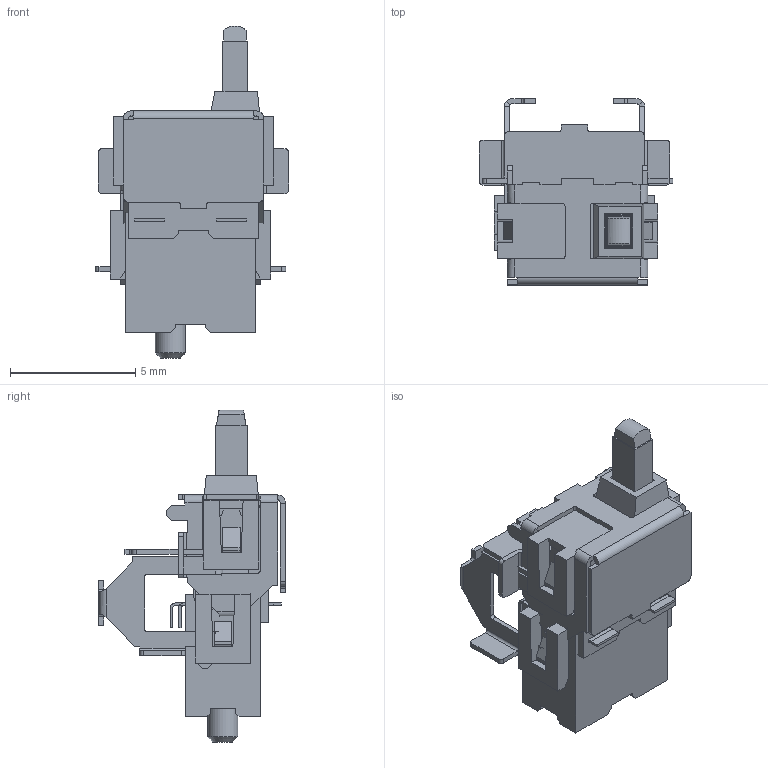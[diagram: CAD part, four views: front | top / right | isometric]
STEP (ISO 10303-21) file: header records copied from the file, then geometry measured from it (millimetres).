
FILE_DESCRIPTION( ( 'Unknown' ), '1' );
FILE_NAME( '//Ntcw022/edgesv/fsw/ユーザ提出用データ/ﾃﾞｨﾃｸﾀｰｽｲｯﾁ/ESE11/ese11mh2-std-sk.stp', 'Unknown', ( 'Unknown' ), ( 'Unknown' ), 'PSStep 10.0', 'Unknown', ' ' );
FILE_SCHEMA( ( 'AUTOMOTIVE_DESIGN { 1 0 10303 214 1 1 1 1 }' ) );
Length unit declared in the file: millimetre
Products named in the file (9): Assem1; sw-3d-131-e11ts1a-mh-sk-r00; sw-3d-131-e11cs1-mh24-sk-r01; sw-3d-131-e11lv-mh-sk-r00; sw-131-e11tf5b-sk-r00 ; sw-3d-131-e11cv4-mh-sk-r00
Bounding box: 7.72 x 7.43 x 13.25 mm (x, y, z)
Volume: 198.4 mm3; surface area: 722.9 mm2
Topology: 16 solids, 16 shells, 622 faces, 1732 edges, 1134 vertices
Faces by surface type: plane 518, cylinder 94, bspline 8, cone 2
Full cylindrical faces by diameter (mm): 1.2 x2
Entity records: 12515 total; most frequent: CARTESIAN_POINT 1827, ORIENTED_EDGE 1728, DIRECTION 1591, EDGE_CURVE 864, LINE 753, VECTOR 753, VERTEX_POINT 567, AXIS2_PLACEMENT_3D 419
